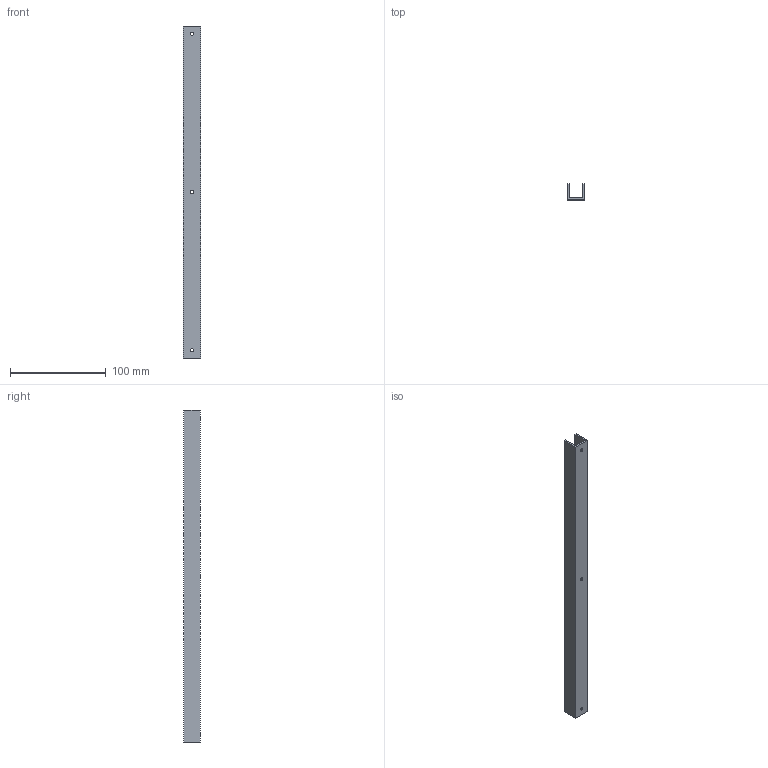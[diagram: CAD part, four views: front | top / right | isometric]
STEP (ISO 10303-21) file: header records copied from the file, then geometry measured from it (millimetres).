
FILE_DESCRIPTION(/* description */ ('','CAx-IF Rec.Pracs.---Representation and Presentation of Product Manufacturing Information (PMI)---4.0---2014-10-13'),/* implementation_level */ '2;1');
FILE_NAME(/* name */ 'E:\CAMTEC_2020_Pack and Go\Subrack_2U\2051040002.stp',/* time_stamp */ '2020-09-21T15:02:05+02:00',/* author */ ('rryba'),/* organization */ (''),/* preprocessor_version */ 'ST-DEVELOPER v18.1',/* originating_system */ 'Autodesk Inventor 2021',/* authorisation */ '');
FILE_SCHEMA (('AP242_MANAGED_MODEL_BASED_3D_ENGINEERING_MIM_LF { 1 0 10303 442 1 1 4 }'));
Length unit declared in the file: millimetre
Products named in the file (1): 2051040002
Bounding box: 18 x 17 x 346 mm (x, y, z)
Volume: 33103 mm3; surface area: 34796 mm2
Topology: 1 solids, 1 shells, 19 faces, 58 edges, 51 vertices
Faces by surface type: plane 10, cylinder 6, cone 3
Full cylindrical faces by diameter (mm): 3.4 x3, 5.9 x3
Entity records: 680 total; most frequent: CARTESIAN_POINT 116, DIRECTION 103, ORIENTED_EDGE 90, EDGE_CURVE 45, AXIS2_PLACEMENT_3D 35, LINE 33, VECTOR 33, VERTEX_POINT 28
